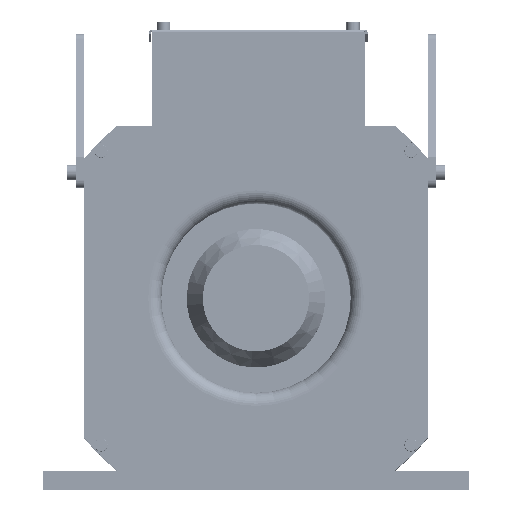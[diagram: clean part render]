
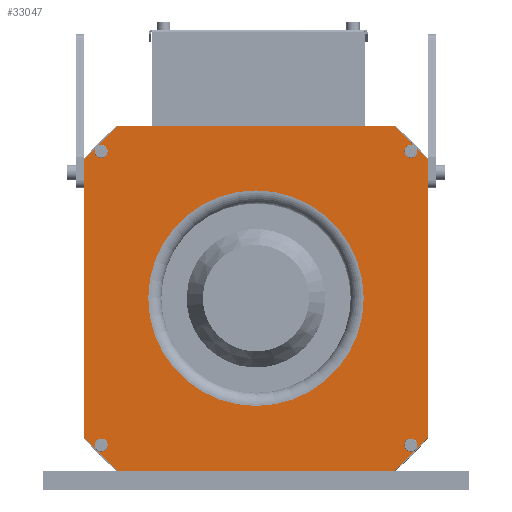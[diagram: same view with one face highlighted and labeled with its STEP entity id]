
A CAD part, top view. The second image highlights one B-rep face of the part: STEP entity #33047.
In plain terms, the highlighted planar face has unit normal (0, 0, 1) as drawn and (-1, 0, 0) by its records, which use the part's own axes.
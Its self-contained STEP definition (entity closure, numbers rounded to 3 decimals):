
#414 = ORIENTED_EDGE ( 'NONE', *, *, #97612, .F. ) ;
#5601 = AXIS2_PLACEMENT_3D ( 'NONE', #57354, #28580, #49511 ) ;
#5669 = AXIS2_PLACEMENT_3D ( 'NONE', #47216, #26952, #77288 ) ;
#5783 = VECTOR ( 'NONE', #94130, 1000. ) ;
#7177 = VECTOR ( 'NONE', #66666, 1000. ) ;
#7235 = ORIENTED_EDGE ( 'NONE', *, *, #124697, .F. ) ;
#7266 = ORIENTED_EDGE ( 'NONE', *, *, #87178, .F. ) ;
#7936 = CARTESIAN_POINT ( 'NONE',  ( 0., 90., 112. ) ) ;
#8166 = EDGE_CURVE ( 'NONE', #51272, #87883, #113666, .T. ) ;
#9559 = VERTEX_POINT ( 'NONE', #64922 ) ;
#16382 = CARTESIAN_POINT ( 'NONE',  ( 0., 90., 112. ) ) ;
#16811 = FACE_OUTER_BOUND ( 'NONE', #58878, .T. ) ;
#18099 = CARTESIAN_POINT ( 'NONE',  ( 0., 0., 70. ) ) ;
#19851 = DIRECTION ( 'NONE',  ( 1., 0., 0. ) ) ;
#20596 = VERTEX_POINT ( 'NONE', #110144 ) ;
#21187 = ORIENTED_EDGE ( 'NONE', *, *, #56221, .F. ) ;
#23608 = CARTESIAN_POINT ( 'NONE',  ( 0., -112., 90. ) ) ;
#26636 = CARTESIAN_POINT ( 'NONE',  ( 0., 112., -90. ) ) ;
#26952 = DIRECTION ( 'NONE',  ( -1., 0., 0. ) ) ;
#27233 = DIRECTION ( 'NONE',  ( 0., 0., -1. ) ) ;
#27994 = VERTEX_POINT ( 'NONE', #69860 ) ;
#28580 = DIRECTION ( 'NONE',  ( -1., 0., 0. ) ) ;
#29616 = EDGE_CURVE ( 'NONE', #107956, #27994, #70257, .T. ) ;
#31367 = LINE ( 'NONE', #41836, #81156 ) ;
#31736 = DIRECTION ( 'NONE',  ( 0., 1., 0. ) ) ;
#31998 = DIRECTION ( 'NONE',  ( 0., -1., 0. ) ) ;
#33047 = ADVANCED_FACE ( 'NONE', ( #106247, #16811 ), #97091, .F. ) ;
#36621 = VECTOR ( 'NONE', #64787, 1000. ) ;
#38646 = CARTESIAN_POINT ( 'NONE',  ( 0., 112., 90. ) ) ;
#41836 = CARTESIAN_POINT ( 'NONE',  ( 0., 155., 112. ) ) ;
#44945 = LINE ( 'NONE', #116699, #83177 ) ;
#46407 = CARTESIAN_POINT ( 'NONE',  ( 0., 112., 0. ) ) ;
#47216 = CARTESIAN_POINT ( 'NONE',  ( 0., 0., 0. ) ) ;
#47437 = CARTESIAN_POINT ( 'NONE',  ( 0., 112., -90. ) ) ;
#49511 = DIRECTION ( 'NONE',  ( 0., 0., 1. ) ) ;
#51006 = VECTOR ( 'NONE', #31736, 1000. ) ;
#51272 = VERTEX_POINT ( 'NONE', #47437 ) ;
#51525 = VERTEX_POINT ( 'NONE', #104144 ) ;
#52462 = CARTESIAN_POINT ( 'NONE',  ( 0., -90., -112. ) ) ;
#56221 = EDGE_CURVE ( 'NONE', #87883, #100864, #64309, .T. ) ;
#56451 = ORIENTED_EDGE ( 'NONE', *, *, #66786, .F. ) ;
#56783 = ORIENTED_EDGE ( 'NONE', *, *, #29616, .F. ) ;
#57354 = CARTESIAN_POINT ( 'NONE',  ( 0., 0., 0. ) ) ;
#58878 = EDGE_LOOP ( 'NONE', ( #60860, #21187, #120080, #414, #110361, #56451, #7266, #59614 ) ) ;
#59272 = LINE ( 'NONE', #26636, #102405 ) ;
#59614 = ORIENTED_EDGE ( 'NONE', *, *, #104284, .F. ) ;
#60860 = ORIENTED_EDGE ( 'NONE', *, *, #70891, .F. ) ;
#63856 = EDGE_LOOP ( 'NONE', ( #56783, #7235 ) ) ;
#64309 = LINE ( 'NONE', #7936, #77452 ) ;
#64787 = DIRECTION ( 'NONE',  ( 0., -0.707, -0.707 ) ) ;
#64922 = CARTESIAN_POINT ( 'NONE',  ( 0., -112., 90. ) ) ;
#66666 = DIRECTION ( 'NONE',  ( 0., 0., 1. ) ) ;
#66786 = EDGE_CURVE ( 'NONE', #120785, #91766, #96676, .T. ) ;
#69860 = CARTESIAN_POINT ( 'NONE',  ( 0., 0., -70. ) ) ;
#70257 = CIRCLE ( 'NONE', #5601, 70. ) ;
#70891 = EDGE_CURVE ( 'NONE', #100864, #20596, #31367, .T. ) ;
#77288 = DIRECTION ( 'NONE',  ( 0., 0., 1. ) ) ;
#77452 = VECTOR ( 'NONE', #104115, 1000. ) ;
#79600 = EDGE_CURVE ( 'NONE', #91766, #51525, #123139, .T. ) ;
#81156 = VECTOR ( 'NONE', #31998, 1000. ) ;
#81794 = LINE ( 'NONE', #23608, #36621 ) ;
#82723 = CARTESIAN_POINT ( 'NONE',  ( 0., 155., -112. ) ) ;
#83177 = VECTOR ( 'NONE', #27233, 1000. ) ;
#86041 = CARTESIAN_POINT ( 'NONE',  ( 0., 155., 0. ) ) ;
#87033 = CIRCLE ( 'NONE', #5669, 70. ) ;
#87178 = EDGE_CURVE ( 'NONE', #9559, #120785, #44945, .T. ) ;
#87883 = VERTEX_POINT ( 'NONE', #38646 ) ;
#87952 = CARTESIAN_POINT ( 'NONE',  ( 0., -112., -90. ) ) ;
#91766 = VERTEX_POINT ( 'NONE', #52462 ) ;
#93634 = AXIS2_PLACEMENT_3D ( 'NONE', #86041, #19851, #120346 ) ;
#94130 = DIRECTION ( 'NONE',  ( 0., 0.707, -0.707 ) ) ;
#96676 = LINE ( 'NONE', #125395, #5783 ) ;
#97091 = PLANE ( 'NONE',  #93634 ) ;
#97612 = EDGE_CURVE ( 'NONE', #51525, #51272, #59272, .T. ) ;
#100864 = VERTEX_POINT ( 'NONE', #16382 ) ;
#102405 = VECTOR ( 'NONE', #117356, 1000. ) ;
#104115 = DIRECTION ( 'NONE',  ( 0., -0.707, 0.707 ) ) ;
#104144 = CARTESIAN_POINT ( 'NONE',  ( 0., 90., -112. ) ) ;
#104284 = EDGE_CURVE ( 'NONE', #20596, #9559, #81794, .T. ) ;
#106247 = FACE_BOUND ( 'NONE', #63856, .T. ) ;
#107956 = VERTEX_POINT ( 'NONE', #18099 ) ;
#110144 = CARTESIAN_POINT ( 'NONE',  ( 0., -90., 112. ) ) ;
#110361 = ORIENTED_EDGE ( 'NONE', *, *, #79600, .F. ) ;
#113666 = LINE ( 'NONE', #46407, #7177 ) ;
#116699 = CARTESIAN_POINT ( 'NONE',  ( 0., -112., 0. ) ) ;
#117356 = DIRECTION ( 'NONE',  ( 0., 0.707, 0.707 ) ) ;
#120080 = ORIENTED_EDGE ( 'NONE', *, *, #8166, .F. ) ;
#120346 = DIRECTION ( 'NONE',  ( 0., 0., -1. ) ) ;
#120785 = VERTEX_POINT ( 'NONE', #87952 ) ;
#123139 = LINE ( 'NONE', #82723, #51006 ) ;
#124697 = EDGE_CURVE ( 'NONE', #27994, #107956, #87033, .T. ) ;
#125395 = CARTESIAN_POINT ( 'NONE',  ( 0., -90., -112. ) ) ;
